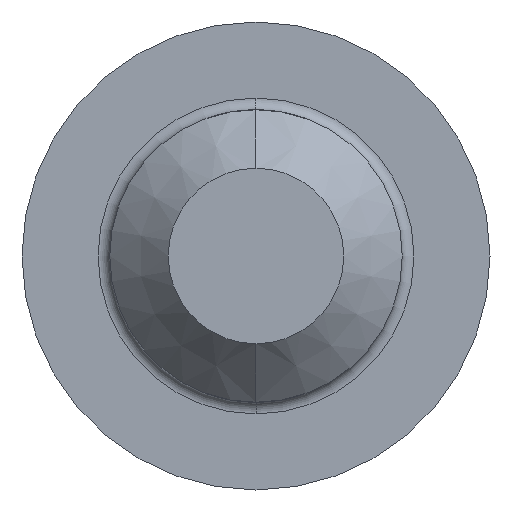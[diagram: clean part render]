
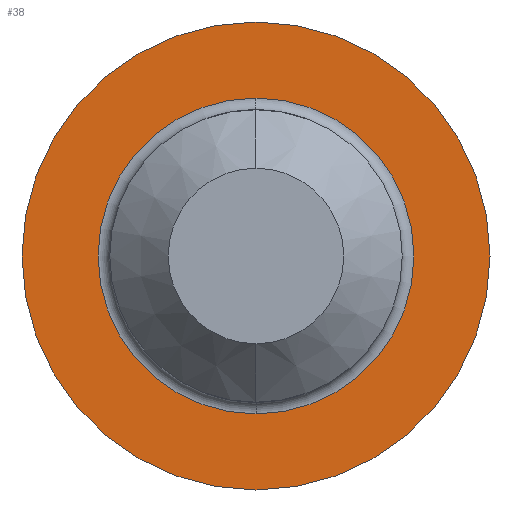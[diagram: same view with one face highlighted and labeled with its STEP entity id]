
A CAD part, left-side view. The second image highlights one B-rep face of the part: STEP entity #38.
In plain terms, the highlighted planar face has unit normal (-1, 0, 0).
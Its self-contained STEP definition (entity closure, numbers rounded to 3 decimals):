
#7 = VERTEX_POINT ( 'NONE', #47 ) ;
#13 = VERTEX_POINT ( 'NONE', #149 ) ;
#15 = EDGE_CURVE ( 'NONE', #13, #7, #171, .T. ) ;
#38 = ADVANCED_FACE ( 'NONE', ( #246, #209 ), #208, .F. ) ;
#39 = ORIENTED_EDGE ( 'NONE', *, *, #67, .T. ) ;
#47 = CARTESIAN_POINT ( 'NONE',  ( 0., 0., -2.7 ) ) ;
#59 = EDGE_CURVE ( 'NONE', #7, #13, #387, .T. ) ;
#62 = EDGE_LOOP ( 'NONE', ( #98, #39 ) ) ;
#67 = EDGE_CURVE ( 'NONE', #89, #88, #400, .T. ) ;
#88 = VERTEX_POINT ( 'NONE', #381 ) ;
#89 = VERTEX_POINT ( 'NONE', #360 ) ;
#91 = ORIENTED_EDGE ( 'NONE', *, *, #59, .T. ) ;
#94 = EDGE_LOOP ( 'NONE', ( #91, #108 ) ) ;
#98 = ORIENTED_EDGE ( 'NONE', *, *, #103, .T. ) ;
#103 = EDGE_CURVE ( 'NONE', #88, #89, #426, .T. ) ;
#108 = ORIENTED_EDGE ( 'NONE', *, *, #15, .T. ) ;
#149 = CARTESIAN_POINT ( 'NONE',  ( 0., 0., 2.7 ) ) ;
#167 = DIRECTION ( 'NONE',  ( 1., 0., 0. ) ) ;
#170 = CARTESIAN_POINT ( 'NONE',  ( 0., 0., 0. ) ) ;
#171 = CIRCLE ( 'NONE', #175, 2.7 ) ;
#172 = DIRECTION ( 'NONE',  ( 0., 0., -1. ) ) ;
#175 = AXIS2_PLACEMENT_3D ( 'NONE', #170, #167, #172 ) ;
#208 = PLANE ( 'NONE',  #242 ) ;
#209 = FACE_OUTER_BOUND ( 'NONE', #62, .T. ) ;
#215 = DIRECTION ( 'NONE',  ( 0., 0., -1. ) ) ;
#242 = AXIS2_PLACEMENT_3D ( 'NONE', #248, #247, #215 ) ;
#246 = FACE_BOUND ( 'NONE', #94, .T. ) ;
#247 = DIRECTION ( 'NONE',  ( 1., 0., 0. ) ) ;
#248 = CARTESIAN_POINT ( 'NONE',  ( 0., 4., 0. ) ) ;
#259 = DIRECTION ( 'NONE',  ( 1., 0., 0. ) ) ;
#260 = CARTESIAN_POINT ( 'NONE',  ( 0., 0., 0. ) ) ;
#273 = AXIS2_PLACEMENT_3D ( 'NONE', #260, #259, #385 ) ;
#274 = CARTESIAN_POINT ( 'NONE',  ( 0., 0., 0. ) ) ;
#304 = DIRECTION ( 'NONE',  ( 0., 0., 1. ) ) ;
#305 = DIRECTION ( 'NONE',  ( -1., 0., 0. ) ) ;
#306 = CARTESIAN_POINT ( 'NONE',  ( 0., 0., 0. ) ) ;
#307 = AXIS2_PLACEMENT_3D ( 'NONE', #306, #305, #304 ) ;
#354 = DIRECTION ( 'NONE',  ( 0., 0., 1. ) ) ;
#355 = DIRECTION ( 'NONE',  ( -1., 0., 0. ) ) ;
#356 = AXIS2_PLACEMENT_3D ( 'NONE', #274, #355, #354 ) ;
#360 = CARTESIAN_POINT ( 'NONE',  ( 0., 0., -4. ) ) ;
#381 = CARTESIAN_POINT ( 'NONE',  ( 0., 0., 4. ) ) ;
#385 = DIRECTION ( 'NONE',  ( 0., 0., -1. ) ) ;
#387 = CIRCLE ( 'NONE', #273, 2.7 ) ;
#400 = CIRCLE ( 'NONE', #356, 4. ) ;
#426 = CIRCLE ( 'NONE', #307, 4. ) ;
